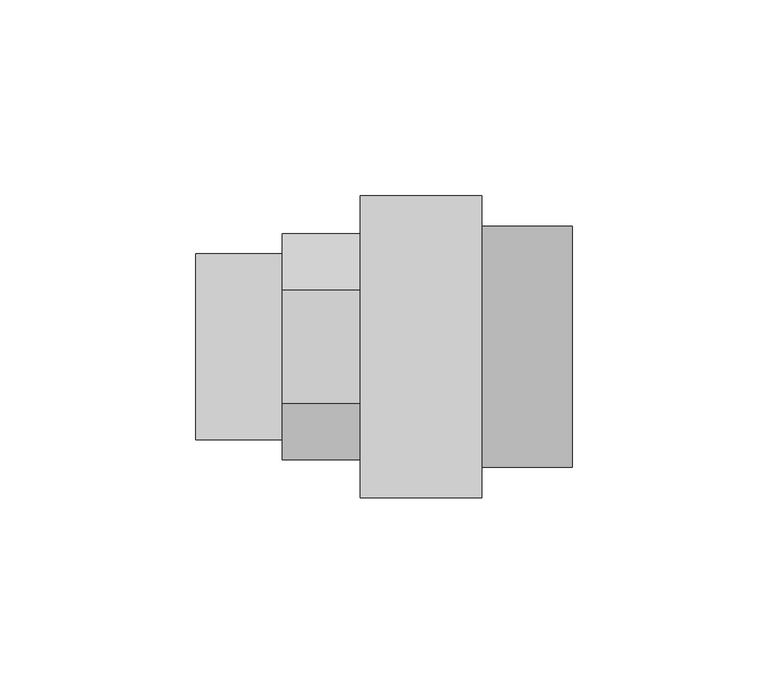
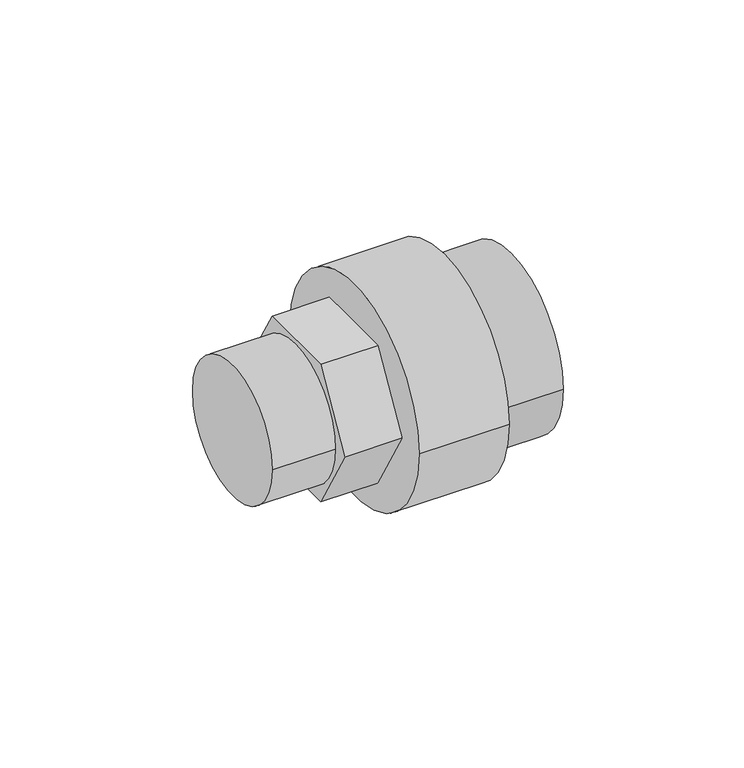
"""IFC4 building model written with IfcOpenShell, lengths in millimetres: pipe fitting geometry, 01011279 : Junções para piscinas F/M."""

import ifcopenshell
import ifcopenshell.guid

model = None  # the IFC model being written
_history = None  # IfcOwnerHistory: only IFC2X3 demands one
_inside = {}  # id of a spatial element -> (the spatial element, [elements in it])
_under = {}  # id of a project, library or spatial element -> (it, [spatial elements below it])
_declared = {}  # id of a project -> (the project, [libraries it declares])
_typed = {}  # id of a type object -> (the type object, [elements of that type])
_made_of = {}  # id of a material, layer set ... -> (it, [elements and type objects made of it])


def new_model(schema):
    """Start an empty IFC model of exactly this schema.

    Asked for "IFC4X3", IfcOpenShell would pick the latest addendum, in which some entities
    have other attributes; the version numbers below select the first issue.
    IFC2X3 requires an IfcOwnerHistory on every rooted entity: one is made here for all.
    """
    global model, _history
    if schema == "IFC4X3":
        model = ifcopenshell.file(schema_version=(4, 3, 0, 0))
    else:
        model = ifcopenshell.file(schema=schema)
    _inside.clear()
    _under.clear()
    _declared.clear()
    _typed.clear()
    _made_of.clear()
    _history = None
    if model.schema == "IFC2X3":
        org = make("IfcOrganization", Name="unknown")
        user = make(
            "IfcPersonAndOrganization",
            ThePerson=make("IfcPerson", FamilyName="unknown"),
            TheOrganization=org,
        )
        app = make(
            "IfcApplication",
            ApplicationDeveloper=org,
            Version="unknown",
            ApplicationFullName="unknown",
            ApplicationIdentifier="unknown",
        )
        _history = make(
            "IfcOwnerHistory",
            OwningUser=user,
            OwningApplication=app,
            ChangeAction="ADDED",
            CreationDate=0,
        )
    return model


def make(cls, **values):
    """One entity of the class cls with the attributes given. An attribute that is None is left unset."""
    return model.create_entity(
        cls, **{name: value for name, value in values.items() if value is not None}
    )


def rooted(cls, **values):
    """An entity with a GlobalId (a new one), such as an element, a storey or a relation."""
    return make(cls, GlobalId=ifcopenshell.guid.new(), OwnerHistory=_history, **values)


def si_unit(unit_type, name, prefix=None):
    """IfcSIUnit, for example si_unit("LENGTHUNIT", "METRE", prefix="MILLI")."""
    return make("IfcSIUnit", UnitType=unit_type, Prefix=prefix, Name=name)


def assignment(units):
    """IfcUnitAssignment: the units of a project."""
    return None if units is None else make("IfcUnitAssignment", Units=units)


def point(xyz):
    """IfcCartesianPoint."""
    return None if xyz is None else make("IfcCartesianPoint", Coordinates=xyz)


def direction(xyz):
    """IfcDirection."""
    return None if xyz is None else make("IfcDirection", DirectionRatios=xyz)


def frame(location, z_axis=None, x_axis=None):
    """IfcAxis2Placement3D, a coordinate frame: its origin and axes. An axis left out is left unset."""
    return make(
        "IfcAxis2Placement3D",
        Location=point(location),
        Axis=direction(z_axis),
        RefDirection=direction(x_axis),
    )


def frame_2d(location, x_axis=None):
    """IfcAxis2Placement2D, a coordinate frame in the plane: its origin and x axis."""
    return make(
        "IfcAxis2Placement2D", Location=point(location), RefDirection=direction(x_axis)
    )


def origin():
    """The frame at (0, 0, 0) with its axes left unset."""
    return frame((0.0, 0.0, 0.0))


def origin_2d():
    """The frame at (0, 0) in the plane with its x axis left unset."""
    return frame_2d((0.0, 0.0))


def place(relative_to, where):
    """IfcLocalPlacement: puts the frame where relative to a parent placement (None: the world)."""
    return make(
        "IfcLocalPlacement", PlacementRelTo=relative_to, RelativePlacement=where
    )


def context(
    kind, dimensions, precision=None, world=None, true_north=None, identifier=None
):
    """IfcGeometricRepresentationContext, for example the 3D "Model" context."""
    return make(
        "IfcGeometricRepresentationContext",
        ContextIdentifier=identifier,
        ContextType=kind,
        CoordinateSpaceDimension=dimensions,
        Precision=precision,
        WorldCoordinateSystem=world,
        TrueNorth=true_north,
    )


def project(units=None, contexts=None):
    """IfcProject with its units and contexts."""
    return rooted(
        "IfcProject",
        Name="project",
        RepresentationContexts=contexts,
        UnitsInContext=assignment(units),
    )


def spatial(cls, under=None, at=None, **own):
    """A site, building, storey or space (cls), placed at a placement, below another one or the project."""
    s = rooted(cls, ObjectPlacement=at, **own)
    if under is not None:
        _under.setdefault(under.id(), (under, []))[1].append(s)
    return s


def polyline(points):
    """IfcPolyline through the points."""
    return make("IfcPolyline", Points=[point(p) for p in points])


def circle_curve(where, radius):
    """IfcCircle in the frame where."""
    return make("IfcCircle", Position=where, Radius=radius)


def trimmed(basis, trim1, trim2, sense, master):
    """IfcTrimmedCurve: the piece of a basis curve between two trims."""
    return make(
        "IfcTrimmedCurve",
        BasisCurve=basis,
        Trim1=trim1,
        Trim2=trim2,
        SenseAgreement=sense,
        MasterRepresentation=master,
    )


def segment(curve, same_sense, transition):
    """IfcCompositeCurveSegment."""
    return make(
        "IfcCompositeCurveSegment",
        Transition=transition,
        SameSense=same_sense,
        ParentCurve=curve,
    )


def composite_curve(segments, self_intersect=None):
    """IfcCompositeCurve: segments joined end to end."""
    return make("IfcCompositeCurve", Segments=segments, SelfIntersect=self_intersect)


def outline(outer, holes=None, kind="AREA"):
    """IfcArbitraryClosedProfileDef: a profile drawn as a closed curve; with holes, ...WithVoids."""
    if holes is None:
        return make("IfcArbitraryClosedProfileDef", ProfileType=kind, OuterCurve=outer)
    return make(
        "IfcArbitraryProfileDefWithVoids",
        ProfileType=kind,
        OuterCurve=outer,
        InnerCurves=holes,
    )


def extrude(swept, where, along, depth):
    """IfcExtrudedAreaSolid: the profile swept, set in the frame where, extruded along a direction by depth."""
    return make(
        "IfcExtrudedAreaSolid",
        SweptArea=swept,
        Position=where,
        ExtrudedDirection=direction(along),
        Depth=depth,
    )


def shape(context_of_items, identifier, shape_type, items):
    """IfcShapeRepresentation: the items that make up one representation, for example the "Body"."""
    return make(
        "IfcShapeRepresentation",
        ContextOfItems=context_of_items,
        RepresentationIdentifier=identifier,
        RepresentationType=shape_type,
        Items=items,
    )


def source(mapping_origin, context_of_items, identifier, shape_type, items):
    """IfcRepresentationMap: a shape defined once, which mapped items show again and again."""
    return make(
        "IfcRepresentationMap",
        MappingOrigin=mapping_origin,
        MappedRepresentation=shape(context_of_items, identifier, shape_type, items),
    )


def transform(
    local_origin,
    x_axis=None,
    y_axis=None,
    z_axis=None,
    scale=None,
    scale2=None,
    scale3=None,
    uniform=True,
):
    """IfcCartesianTransformationOperator3D, or its non-uniform kind. x_axis, y_axis, z_axis: its Axis1, 2, 3."""
    if uniform:
        return make(
            "IfcCartesianTransformationOperator3D",
            Axis1=direction(x_axis),
            Axis2=direction(y_axis),
            LocalOrigin=point(local_origin),
            Scale=scale,
            Axis3=direction(z_axis),
        )
    return make(
        "IfcCartesianTransformationOperator3DnonUniform",
        Axis1=direction(x_axis),
        Axis2=direction(y_axis),
        LocalOrigin=point(local_origin),
        Scale=scale,
        Axis3=direction(z_axis),
        Scale2=scale2,
        Scale3=scale3,
    )


def mapped(mapping_source, mapping_target):
    """IfcMappedItem: shows the shape of a source again, moved by a transform."""
    return make(
        "IfcMappedItem", MappingSource=mapping_source, MappingTarget=mapping_target
    )


def made_of(thing, what):
    """Note that an element or type object is made of a material, layer set ...; save() writes the relation."""
    if what is not None:
        _made_of.setdefault(what.id(), (what, []))[1].append(thing)
    return thing


def element(
    cls,
    number,
    at=None,
    inside=None,
    cuts=None,
    type_object=None,
    material=None,
    context=None,
    identifier="Body",
    shape_type=None,
    held_by="IfcProductDefinitionShape",
    body=None,
    shapes=None,
    **own,
):
    """One element of the class cls, such as IfcWall. Its Tag is "e" and its number.

    at: its placement. inside: the storey or other place that contains it. cuts: it is an
    opening in that element (IfcRelVoidsElement). A single representation is given by context,
    identifier, shape_type and body (its items); several are given by shapes. held_by: the class
    of the entity that holds the representations. save() writes the other relations.
    """
    e = rooted(cls, Tag="e%d" % number, ObjectPlacement=at, **own)
    if body is not None:
        shapes = [shape(context, identifier, shape_type, body)]
    if shapes is not None:
        e.Representation = make(held_by, Representations=shapes)
    if inside is not None:
        _inside.setdefault(inside.id(), (inside, []))[1].append(e)
    if cuts is not None:
        rooted(
            "IfcRelVoidsElement", RelatingBuildingElement=cuts, RelatedOpeningElement=e
        )
    if type_object is not None:
        _typed.setdefault(type_object.id(), (type_object, []))[1].append(e)
    return made_of(e, material)


def aggregate(whole, parts):
    """IfcRelAggregates: a whole, such as a stair, and the parts it consists of."""
    return rooted("IfcRelAggregates", RelatingObject=whole, RelatedObjects=parts)


def save(model, path):
    """Write the relations noted so far, then the file.

    IfcRelAggregates (storeys below a building ...), IfcRelContainedInSpatialStructure (elements
    in a storey), IfcRelDefinesByType, IfcRelAssociatesMaterial and IfcRelDeclares: one each for
    every whole, place, type object, material and project.
    """
    for whole, parts in _under.values():
        aggregate(whole, parts)
    for where, things in _inside.values():
        rooted(
            "IfcRelContainedInSpatialStructure",
            RelatedElements=things,
            RelatingStructure=where,
        )
    for kind, things in _typed.values():
        rooted("IfcRelDefinesByType", RelatedObjects=things, RelatingType=kind)
    for what, things in _made_of.values():
        rooted("IfcRelAssociatesMaterial", RelatedObjects=things, RelatingMaterial=what)
    for by, libraries in _declared.values():
        rooted("IfcRelDeclares", RelatingContext=by, RelatedDefinitions=libraries)
    model.write(path)


def pipe_fitting_2177b818(model_context):
    return source(origin(), model_context, "Body", "SweptSolid", [
        extrude(outline(composite_curve([segment(trimmed(circle_curve(origin_2d(), 38.5), [point((38.5, 0.0))], [point((-38.5, 0.0))], False, "CARTESIAN"), True, "CONTINUOUS"), segment(trimmed(circle_curve(origin_2d(), 38.5), [point((-38.5, 0.0))], [point((38.5, 0.0))], False, "CARTESIAN"), True, "CONTINUOUS")], self_intersect=False)), frame((-20.0, 0.0, 0.0), z_axis=(1.0, 0.0, 0.0), x_axis=(0.0, 1.0, 0.0)), (0.0, 0.0, 1.0), 31.0),
        extrude(outline(polyline([(-14.4337567, 25.0), (14.4337567, 25.0), (28.8675135, 0.0), (14.4337567, -25.0), (-14.4337567, -25.0), (-28.8675135, 0.0), (-14.4337567, 25.0)])), frame((-40.0, 0.0, 0.0), z_axis=(1.0, 0.0, 0.0), x_axis=(0.0, 1.0, 0.0)), (0.0, 0.0, 1.0), 20.0),
        extrude(outline(composite_curve([segment(trimmed(circle_curve(origin_2d(), 23.75), [point((23.75, 0.0))], [point((-23.75, 0.0))], False, "CARTESIAN"), True, "CONTINUOUS"), segment(trimmed(circle_curve(origin_2d(), 23.75), [point((-23.75, 0.0))], [point((23.75, 0.0))], False, "CARTESIAN"), True, "CONTINUOUS")], self_intersect=False)), frame((-62.0, 0.0, 0.0), z_axis=(1.0, 0.0, 0.0), x_axis=(0.0, 1.0, 0.0)), (0.0, 0.0, 1.0), 22.0),
        extrude(outline(composite_curve([segment(trimmed(circle_curve(origin_2d(), 30.8), [point((-30.8, 0.0))], [point((30.8, 0.0))], False, "CARTESIAN"), True, "CONTINUOUS"), segment(trimmed(circle_curve(origin_2d(), 30.8), [point((30.8, 0.0))], [point((-30.8, 0.0))], False, "CARTESIAN"), True, "CONTINUOUS")], self_intersect=False)), frame((11.0, 0.0, 0.0), z_axis=(1.0, 0.0, 0.0), x_axis=(0.0, 1.0, 0.0)), (0.0, 0.0, 1.0), 23.0),
    ])


if __name__ == "__main__":
    model = new_model("IFC4")
    model_context = context("Model", 3, world=origin())
    ifc_project = project(units=[si_unit("LENGTHUNIT", "METRE", prefix="MILLI")], contexts=[model_context])
    site = spatial("IfcSite", under=ifc_project)
    building = spatial("IfcBuilding", under=site)
    placement = place(None, origin())
    pipe_fitting_shape = pipe_fitting_2177b818(model_context)
    element("IfcPipeFitting", 1, ObjectType="01011279 : Junções para piscinas F/M", at=placement, inside=building, context=model_context, shape_type="MappedRepresentation", body=[
        mapped(pipe_fitting_shape, transform((0.0, 0.0, 0.0), x_axis=(1.0, 0.0, 0.0), y_axis=(0.0, 1.0, 0.0), z_axis=(0.0, 0.0, 1.0))),
    ])
    save(model, "model.ifc")
